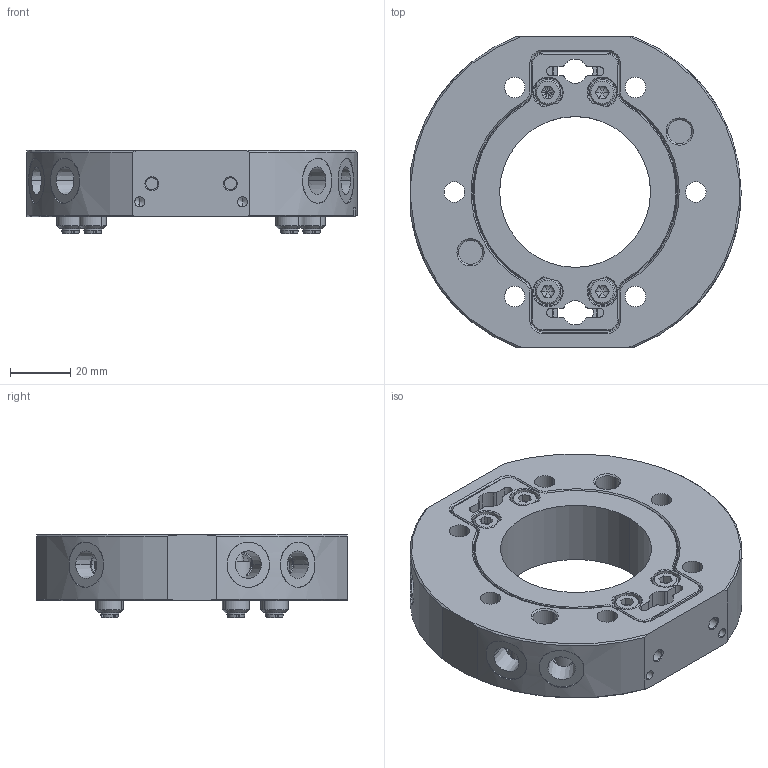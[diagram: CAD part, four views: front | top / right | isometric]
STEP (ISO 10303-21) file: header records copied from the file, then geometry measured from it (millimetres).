
FILE_DESCRIPTION (( 'STEP AP203' ), '1' );
FILE_NAME ('ST-35YF(諦誧傷).STEP', '2024-12-13T03:47:05', ( '' ), ( '' ), 'SwSTEP 2.0', 'SolidWorks 2018', '' );
FILE_SCHEMA (( 'CONFIG_CONTROL_DESIGN' ));
Length unit declared in the file: millimetre
Products named in the file (1): ST-35YF(諦誧傷)
Bounding box: 109.4 x 103 x 27.5 mm (x, y, z)
Volume: 147044.1 mm3; surface area: 42949 mm2
Topology: 3 solids, 8 shells, 713 faces, 1765 edges, 1078 vertices
Faces by surface type: plane 266, cylinder 256, cone 155, bspline 30, torus 6
Entity records: 23098 total; most frequent: CARTESIAN_POINT 6074, DIRECTION 3678, ORIENTED_EDGE 3454, EDGE_CURVE 1727, AXIS2_PLACEMENT_3D 1449, VERTEX_POINT 1078, EDGE_LOOP 805, LINE 780
